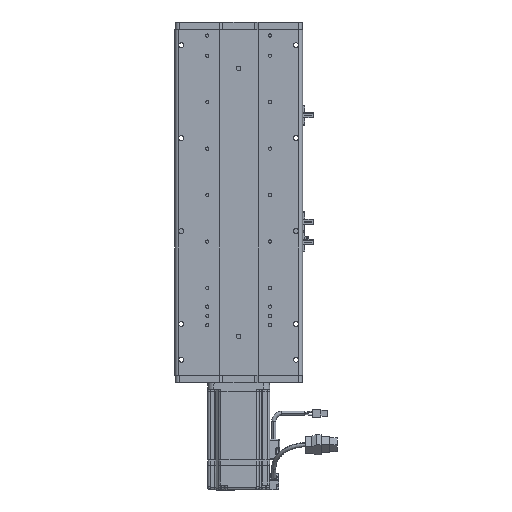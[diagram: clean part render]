
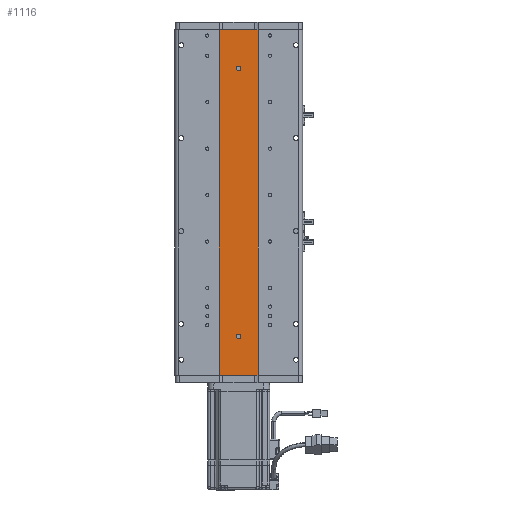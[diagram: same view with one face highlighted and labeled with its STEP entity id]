
A CAD part, front view. The second image highlights one B-rep face of the part: STEP entity #1116.
In plain terms, the highlighted planar face has unit normal (0, -1, 0).
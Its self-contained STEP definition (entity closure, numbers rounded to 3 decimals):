
#1116 = ADVANCED_FACE ( 'NONE', ( #56978, #44214, #18917 ), #28624, .F. ) ;
#1123 = CIRCLE ( 'NONE', #15828, 3. ) ;
#2803 = LINE ( 'NONE', #25462, #26659 ) ;
#3189 = CARTESIAN_POINT ( 'NONE',  ( -25., 1., 223. ) ) ;
#6996 = EDGE_CURVE ( 'NONE', #20325, #54987, #13065, .T. ) ;
#7034 = EDGE_LOOP ( 'NONE', ( #51632, #22987 ) ) ;
#9548 = ORIENTED_EDGE ( 'NONE', *, *, #14440, .F. ) ;
#10005 = DIRECTION ( 'NONE',  ( 0., 0., -1. ) ) ;
#10980 = EDGE_CURVE ( 'NONE', #48902, #24418, #19197, .T. ) ;
#12018 = CARTESIAN_POINT ( 'NONE',  ( 0., 1., 176. ) ) ;
#12587 = EDGE_CURVE ( 'NONE', #54987, #59281, #2803, .T. ) ;
#13023 = CIRCLE ( 'NONE', #14677, 3. ) ;
#13065 = LINE ( 'NONE', #38508, #38411 ) ;
#13379 = ORIENTED_EDGE ( 'NONE', *, *, #12587, .T. ) ;
#14440 = EDGE_CURVE ( 'NONE', #49600, #35754, #1123, .T. ) ;
#14677 = AXIS2_PLACEMENT_3D ( 'NONE', #46843, #18322, #51694 ) ;
#14683 = CARTESIAN_POINT ( 'NONE',  ( 0., 1., 173. ) ) ;
#14965 = EDGE_LOOP ( 'NONE', ( #9548, #23466 ) ) ;
#15828 = AXIS2_PLACEMENT_3D ( 'NONE', #21099, #54489, #25860 ) ;
#17258 = AXIS2_PLACEMENT_3D ( 'NONE', #57030, #18452, #38166 ) ;
#17259 = ORIENTED_EDGE ( 'NONE', *, *, #6996, .T. ) ;
#17424 = EDGE_LOOP ( 'NONE', ( #13379, #53098, #48014, #17259 ) ) ;
#17761 = CARTESIAN_POINT ( 'NONE',  ( 0., 1., 170. ) ) ;
#18322 = DIRECTION ( 'NONE',  ( 0., -1., 0. ) ) ;
#18452 = DIRECTION ( 'NONE',  ( 0., 1., 0. ) ) ;
#18917 = FACE_OUTER_BOUND ( 'NONE', #17424, .T. ) ;
#19197 = CIRCLE ( 'NONE', #60832, 3. ) ;
#19519 = DIRECTION ( 'NONE',  ( 0., 0., -1. ) ) ;
#20325 = VERTEX_POINT ( 'NONE', #3189 ) ;
#21099 = CARTESIAN_POINT ( 'NONE',  ( 0., 1., 173. ) ) ;
#21710 = DIRECTION ( 'NONE',  ( 0., -1., 0. ) ) ;
#22090 = EDGE_CURVE ( 'NONE', #20325, #50449, #34157, .T. ) ;
#22758 = CARTESIAN_POINT ( 'NONE',  ( 0., 1., -170. ) ) ;
#22987 = ORIENTED_EDGE ( 'NONE', *, *, #57651, .F. ) ;
#23466 = ORIENTED_EDGE ( 'NONE', *, *, #29068, .F. ) ;
#24418 = VERTEX_POINT ( 'NONE', #22758 ) ;
#24749 = CARTESIAN_POINT ( 'NONE',  ( 25., 1., 223. ) ) ;
#25462 = CARTESIAN_POINT ( 'NONE',  ( 25., 1., -223. ) ) ;
#25652 = VECTOR ( 'NONE', #44989, 1000. ) ;
#25860 = DIRECTION ( 'NONE',  ( 0., 0., -1. ) ) ;
#26659 = VECTOR ( 'NONE', #44830, 1000. ) ;
#28624 = PLANE ( 'NONE',  #17258 ) ;
#29068 = EDGE_CURVE ( 'NONE', #35754, #49600, #30604, .T. ) ;
#30164 = LINE ( 'NONE', #30631, #25652 ) ;
#30604 = CIRCLE ( 'NONE', #53691, 3. ) ;
#30631 = CARTESIAN_POINT ( 'NONE',  ( 25., 1., 223. ) ) ;
#33374 = EDGE_CURVE ( 'NONE', #50449, #59281, #30164, .T. ) ;
#34157 = LINE ( 'NONE', #49053, #56607 ) ;
#35754 = VERTEX_POINT ( 'NONE', #12018 ) ;
#38166 = DIRECTION ( 'NONE',  ( 0., 0., 1. ) ) ;
#38411 = VECTOR ( 'NONE', #10005, 1000. ) ;
#38508 = CARTESIAN_POINT ( 'NONE',  ( -25., 1., 223. ) ) ;
#39387 = DIRECTION ( 'NONE',  ( 1., 0., 0. ) ) ;
#44214 = FACE_BOUND ( 'NONE', #14965, .T. ) ;
#44830 = DIRECTION ( 'NONE',  ( 1., 0., 0. ) ) ;
#44989 = DIRECTION ( 'NONE',  ( 0., 0., -1. ) ) ;
#45566 = CARTESIAN_POINT ( 'NONE',  ( 0., 1., -176. ) ) ;
#46843 = CARTESIAN_POINT ( 'NONE',  ( 0., 1., -173. ) ) ;
#47933 = CARTESIAN_POINT ( 'NONE',  ( 25., 1., -223. ) ) ;
#48014 = ORIENTED_EDGE ( 'NONE', *, *, #22090, .F. ) ;
#48029 = DIRECTION ( 'NONE',  ( 0., -1., 0. ) ) ;
#48902 = VERTEX_POINT ( 'NONE', #45566 ) ;
#49053 = CARTESIAN_POINT ( 'NONE',  ( 25., 1., 223. ) ) ;
#49600 = VERTEX_POINT ( 'NONE', #17761 ) ;
#50289 = CARTESIAN_POINT ( 'NONE',  ( 0., 1., -173. ) ) ;
#50449 = VERTEX_POINT ( 'NONE', #24749 ) ;
#51632 = ORIENTED_EDGE ( 'NONE', *, *, #10980, .F. ) ;
#51694 = DIRECTION ( 'NONE',  ( 0., 0., -1. ) ) ;
#53098 = ORIENTED_EDGE ( 'NONE', *, *, #33374, .F. ) ;
#53691 = AXIS2_PLACEMENT_3D ( 'NONE', #14683, #48029, #19519 ) ;
#54489 = DIRECTION ( 'NONE',  ( 0., -1., 0. ) ) ;
#54987 = VERTEX_POINT ( 'NONE', #60458 ) ;
#55129 = DIRECTION ( 'NONE',  ( 0., 0., -1. ) ) ;
#56607 = VECTOR ( 'NONE', #39387, 1000. ) ;
#56978 = FACE_BOUND ( 'NONE', #7034, .T. ) ;
#57030 = CARTESIAN_POINT ( 'NONE',  ( 25., 1., 223. ) ) ;
#57651 = EDGE_CURVE ( 'NONE', #24418, #48902, #13023, .T. ) ;
#59281 = VERTEX_POINT ( 'NONE', #47933 ) ;
#60458 = CARTESIAN_POINT ( 'NONE',  ( -25., 1., -223. ) ) ;
#60832 = AXIS2_PLACEMENT_3D ( 'NONE', #50289, #21710, #55129 ) ;
